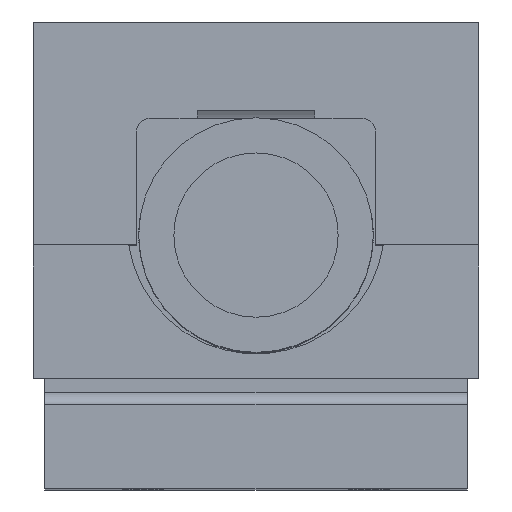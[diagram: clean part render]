
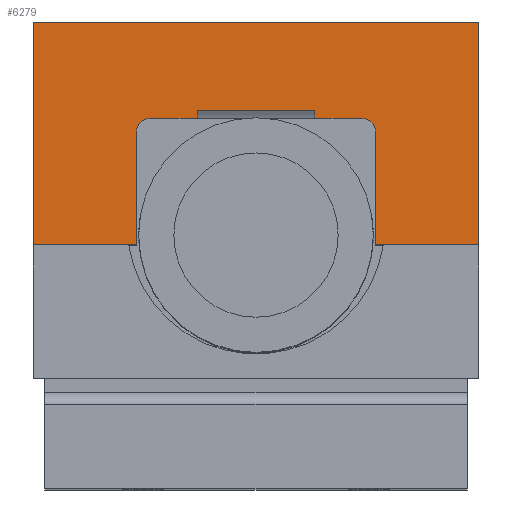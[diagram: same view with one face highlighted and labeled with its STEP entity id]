
A CAD part, top view. The second image highlights one B-rep face of the part: STEP entity #6279.
In plain terms, the highlighted planar face has unit normal (0, 0, 1).
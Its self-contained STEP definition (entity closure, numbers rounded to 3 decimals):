
#245 = CARTESIAN_POINT ( 'NONE',  ( -95., 41., 25. ) ) ;
#376 = AXIS2_PLACEMENT_3D ( 'NONE', #4023, #623, #14285 ) ;
#451 = CARTESIAN_POINT ( 'NONE',  ( -45., -6., 25. ) ) ;
#522 = VERTEX_POINT ( 'NONE', #8203 ) ;
#577 = VECTOR ( 'NONE', #13170, 1000. ) ;
#623 = DIRECTION ( 'NONE',  ( 0., 0., -1. ) ) ;
#635 = CARTESIAN_POINT ( 'NONE',  ( 25., 3.175, 25. ) ) ;
#768 = EDGE_CURVE ( 'NONE', #2542, #6511, #6778, .T. ) ;
#848 = VECTOR ( 'NONE', #5131, 1000. ) ;
#1099 = CIRCLE ( 'NONE', #4365, 6. ) ;
#1165 = DIRECTION ( 'NONE',  ( 0., -1., 0. ) ) ;
#1368 = ORIENTED_EDGE ( 'NONE', *, *, #12817, .T. ) ;
#1803 = LINE ( 'NONE', #13938, #8863 ) ;
#1845 = VECTOR ( 'NONE', #6854, 1000. ) ;
#1867 = ORIENTED_EDGE ( 'NONE', *, *, #6044, .T. ) ;
#1927 = ORIENTED_EDGE ( 'NONE', *, *, #7619, .T. ) ;
#1929 = ORIENTED_EDGE ( 'NONE', *, *, #3789, .T. ) ;
#2043 = ORIENTED_EDGE ( 'NONE', *, *, #12733, .T. ) ;
#2155 = VECTOR ( 'NONE', #8795, 1000. ) ;
#2232 = ORIENTED_EDGE ( 'NONE', *, *, #3327, .T. ) ;
#2252 = VERTEX_POINT ( 'NONE', #9983 ) ;
#2406 = CARTESIAN_POINT ( 'NONE',  ( -51., -54., 25. ) ) ;
#2540 = CARTESIAN_POINT ( 'NONE',  ( 51., 0., 25. ) ) ;
#2542 = VERTEX_POINT ( 'NONE', #13042 ) ;
#2613 = VERTEX_POINT ( 'NONE', #10951 ) ;
#2737 = EDGE_CURVE ( 'NONE', #8236, #2252, #4248, .T. ) ;
#2884 = ORIENTED_EDGE ( 'NONE', *, *, #7064, .T. ) ;
#2924 = CARTESIAN_POINT ( 'NONE',  ( -25., 0., 25. ) ) ;
#2954 = ORIENTED_EDGE ( 'NONE', *, *, #13902, .F. ) ;
#3099 = ORIENTED_EDGE ( 'NONE', *, *, #768, .T. ) ;
#3327 = EDGE_CURVE ( 'NONE', #8913, #2542, #10250, .T. ) ;
#3334 = ORIENTED_EDGE ( 'NONE', *, *, #6002, .T. ) ;
#3464 = CARTESIAN_POINT ( 'NONE',  ( 25., -0.825, 25. ) ) ;
#3486 = CARTESIAN_POINT ( 'NONE',  ( -95., -54., 25. ) ) ;
#3603 = ORIENTED_EDGE ( 'NONE', *, *, #12786, .T. ) ;
#3640 = VECTOR ( 'NONE', #4759, 1000. ) ;
#3684 = CIRCLE ( 'NONE', #376, 6. ) ;
#3705 = EDGE_CURVE ( 'NONE', #2613, #7146, #5217, .T. ) ;
#3752 = DIRECTION ( 'NONE',  ( 0., 1., 0. ) ) ;
#3789 = EDGE_CURVE ( 'NONE', #14410, #8913, #1803, .T. ) ;
#4023 = CARTESIAN_POINT ( 'NONE',  ( 45., -6., 25. ) ) ;
#4248 = LINE ( 'NONE', #10115, #5378 ) ;
#4264 = CARTESIAN_POINT ( 'NONE',  ( 95., -54., 25. ) ) ;
#4365 = AXIS2_PLACEMENT_3D ( 'NONE', #451, #14178, #10908 ) ;
#4488 = VERTEX_POINT ( 'NONE', #11010 ) ;
#4759 = DIRECTION ( 'NONE',  ( -1., 0., 0. ) ) ;
#4799 = VERTEX_POINT ( 'NONE', #11155 ) ;
#5131 = DIRECTION ( 'NONE',  ( 1., 0., 0. ) ) ;
#5206 = CARTESIAN_POINT ( 'NONE',  ( -95., -54., 25. ) ) ;
#5217 = LINE ( 'NONE', #14281, #577 ) ;
#5227 = VERTEX_POINT ( 'NONE', #8770 ) ;
#5325 = DIRECTION ( 'NONE',  ( -1., 0., 0. ) ) ;
#5378 = VECTOR ( 'NONE', #7752, 1000. ) ;
#5449 = EDGE_LOOP ( 'NONE', ( #2954, #1368, #3334, #2884, #12937, #3603, #1929, #2232, #3099, #1927, #12679, #1867, #2043, #13957 ) ) ;
#5504 = DIRECTION ( 'NONE',  ( 0., -1., 0. ) ) ;
#6002 = EDGE_CURVE ( 'NONE', #4799, #522, #10397, .T. ) ;
#6044 = EDGE_CURVE ( 'NONE', #4488, #5227, #1099, .T. ) ;
#6278 = VECTOR ( 'NONE', #5504, 1000. ) ;
#6279 = ADVANCED_FACE ( 'NONE', ( #11195 ), #10067, .F. ) ;
#6511 = VERTEX_POINT ( 'NONE', #3486 ) ;
#6652 = LINE ( 'NONE', #4264, #2155 ) ;
#6778 = LINE ( 'NONE', #13319, #6278 ) ;
#6854 = DIRECTION ( 'NONE',  ( 0., 1., 0. ) ) ;
#7064 = EDGE_CURVE ( 'NONE', #522, #8236, #3684, .T. ) ;
#7146 = VERTEX_POINT ( 'NONE', #2924 ) ;
#7290 = LINE ( 'NONE', #5206, #848 ) ;
#7619 = EDGE_CURVE ( 'NONE', #6511, #13135, #7290, .T. ) ;
#7620 = LINE ( 'NONE', #13127, #10682 ) ;
#7752 = DIRECTION ( 'NONE',  ( 0., -1., 0. ) ) ;
#7869 = VECTOR ( 'NONE', #9293, 1000. ) ;
#7965 = LINE ( 'NONE', #11309, #1845 ) ;
#8203 = CARTESIAN_POINT ( 'NONE',  ( 45., 0., 25. ) ) ;
#8236 = VERTEX_POINT ( 'NONE', #13731 ) ;
#8770 = CARTESIAN_POINT ( 'NONE',  ( -45., 0., 25. ) ) ;
#8795 = DIRECTION ( 'NONE',  ( 1., 0., 0. ) ) ;
#8863 = VECTOR ( 'NONE', #3752, 1000. ) ;
#8870 = VECTOR ( 'NONE', #12705, 1000. ) ;
#8913 = VERTEX_POINT ( 'NONE', #13178 ) ;
#9293 = DIRECTION ( 'NONE',  ( -1., 0., 0. ) ) ;
#9361 = LINE ( 'NONE', #9432, #7869 ) ;
#9432 = CARTESIAN_POINT ( 'NONE',  ( 25., 3.175, 25. ) ) ;
#9834 = AXIS2_PLACEMENT_3D ( 'NONE', #14620, #13508, #5325 ) ;
#9983 = CARTESIAN_POINT ( 'NONE',  ( 51., -54., 25. ) ) ;
#10067 = PLANE ( 'NONE',  #9834 ) ;
#10115 = CARTESIAN_POINT ( 'NONE',  ( 51., -54., 25. ) ) ;
#10250 = LINE ( 'NONE', #245, #3640 ) ;
#10397 = LINE ( 'NONE', #2540, #8870 ) ;
#10682 = VECTOR ( 'NONE', #14310, 1000. ) ;
#10908 = DIRECTION ( 'NONE',  ( -1., 0., 0. ) ) ;
#10951 = CARTESIAN_POINT ( 'NONE',  ( -25., 3.175, 25. ) ) ;
#11010 = CARTESIAN_POINT ( 'NONE',  ( -51., -6., 25. ) ) ;
#11155 = CARTESIAN_POINT ( 'NONE',  ( 25., 0., 25. ) ) ;
#11195 = FACE_OUTER_BOUND ( 'NONE', #5449, .T. ) ;
#11309 = CARTESIAN_POINT ( 'NONE',  ( -51., 0., 25. ) ) ;
#11702 = EDGE_CURVE ( 'NONE', #13135, #4488, #7965, .T. ) ;
#12679 = ORIENTED_EDGE ( 'NONE', *, *, #11702, .T. ) ;
#12705 = DIRECTION ( 'NONE',  ( 1., 0., 0. ) ) ;
#12733 = EDGE_CURVE ( 'NONE', #5227, #7146, #7620, .T. ) ;
#12786 = EDGE_CURVE ( 'NONE', #2252, #14410, #6652, .T. ) ;
#12817 = EDGE_CURVE ( 'NONE', #14316, #4799, #13720, .T. ) ;
#12937 = ORIENTED_EDGE ( 'NONE', *, *, #2737, .T. ) ;
#13042 = CARTESIAN_POINT ( 'NONE',  ( -95., 41., 25. ) ) ;
#13127 = CARTESIAN_POINT ( 'NONE',  ( 51., 0., 25. ) ) ;
#13135 = VERTEX_POINT ( 'NONE', #2406 ) ;
#13170 = DIRECTION ( 'NONE',  ( 0., -1., 0. ) ) ;
#13178 = CARTESIAN_POINT ( 'NONE',  ( 95., 41., 25. ) ) ;
#13319 = CARTESIAN_POINT ( 'NONE',  ( -95., -54., 25. ) ) ;
#13508 = DIRECTION ( 'NONE',  ( 0., 0., -1. ) ) ;
#13720 = LINE ( 'NONE', #3464, #13782 ) ;
#13731 = CARTESIAN_POINT ( 'NONE',  ( 51., -6., 25. ) ) ;
#13782 = VECTOR ( 'NONE', #1165, 1000. ) ;
#13902 = EDGE_CURVE ( 'NONE', #14316, #2613, #9361, .T. ) ;
#13938 = CARTESIAN_POINT ( 'NONE',  ( 95., 41., 25. ) ) ;
#13957 = ORIENTED_EDGE ( 'NONE', *, *, #3705, .F. ) ;
#14178 = DIRECTION ( 'NONE',  ( 0., 0., -1. ) ) ;
#14225 = CARTESIAN_POINT ( 'NONE',  ( 95., -54., 25. ) ) ;
#14281 = CARTESIAN_POINT ( 'NONE',  ( -25., -0.825, 25. ) ) ;
#14285 = DIRECTION ( 'NONE',  ( -1., 0., 0. ) ) ;
#14310 = DIRECTION ( 'NONE',  ( 1., 0., 0. ) ) ;
#14316 = VERTEX_POINT ( 'NONE', #635 ) ;
#14410 = VERTEX_POINT ( 'NONE', #14225 ) ;
#14620 = CARTESIAN_POINT ( 'NONE',  ( 0., 0., 25. ) ) ;
